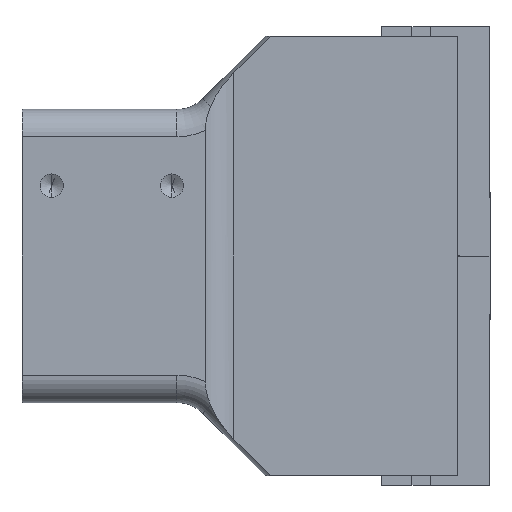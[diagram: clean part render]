
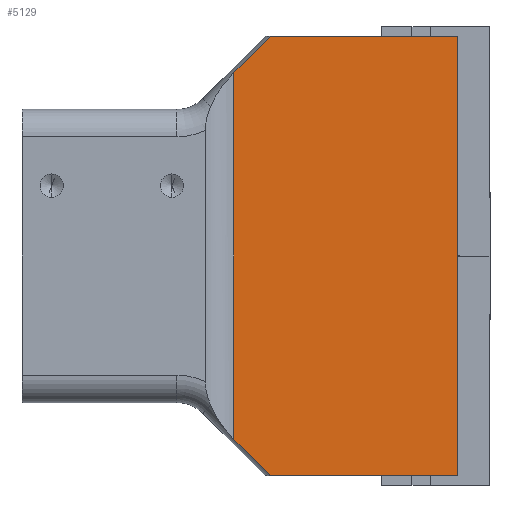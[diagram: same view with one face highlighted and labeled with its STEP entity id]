
A CAD part, left-side view. The second image highlights one B-rep face of the part: STEP entity #5129.
In plain terms, the highlighted planar face has unit normal (-1, 0, 0).
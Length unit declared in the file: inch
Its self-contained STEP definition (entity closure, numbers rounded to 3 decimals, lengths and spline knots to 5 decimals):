
#23 = CARTESIAN_POINT ( 'NONE',  ( -0.531, -1.486, -1.5 ) ) ;
#129 = LINE ( 'NONE', #5002, #2624 ) ;
#164 = CARTESIAN_POINT ( 'NONE',  ( -0.531, 0.63819, -0.65219 ) ) ;
#192 = EDGE_CURVE ( 'NONE', #3056, #1813, #1023, .T. ) ;
#218 = DIRECTION ( 'NONE',  ( 1., 0., 0. ) ) ;
#269 = CARTESIAN_POINT ( 'NONE',  ( -0.531, -1.486, 1.5 ) ) ;
#364 = CARTESIAN_POINT ( 'NONE',  ( -0.531, 0.04064, 1.5 ) ) ;
#486 = ORIENTED_EDGE ( 'NONE', *, *, #2070, .F. ) ;
#517 = VERTEX_POINT ( 'NONE', #269 ) ;
#559 = LINE ( 'NONE', #364, #4497 ) ;
#642 = LINE ( 'NONE', #1498, #5706 ) ;
#840 = ORIENTED_EDGE ( 'NONE', *, *, #192, .T. ) ;
#958 = EDGE_LOOP ( 'NONE', ( #4115, #5398, #2068, #4723, #486, #840 ) ) ;
#1023 = LINE ( 'NONE', #6231, #3812 ) ;
#1051 = CARTESIAN_POINT ( 'NONE',  ( -0.531, -0.20962, 1.5 ) ) ;
#1120 = CARTESIAN_POINT ( 'NONE',  ( -0.531, -0.20962, -1.5 ) ) ;
#1333 = AXIS2_PLACEMENT_3D ( 'NONE', #6130, #218, #3701 ) ;
#1498 = CARTESIAN_POINT ( 'NONE',  ( -0.531, -1.486, 1.5 ) ) ;
#1627 = VERTEX_POINT ( 'NONE', #5302 ) ;
#1813 = VERTEX_POINT ( 'NONE', #1957 ) ;
#1957 = CARTESIAN_POINT ( 'NONE',  ( -0.531, 0.04064, 1.24974 ) ) ;
#2068 = ORIENTED_EDGE ( 'NONE', *, *, #4985, .T. ) ;
#2070 = EDGE_CURVE ( 'NONE', #3056, #517, #5175, .T. ) ;
#2296 = DIRECTION ( 'NONE',  ( 0., 0.707, -0.707 ) ) ;
#2340 = DIRECTION ( 'NONE',  ( 0., 0., -1. ) ) ;
#2572 = DIRECTION ( 'NONE',  ( 0., -1., 0. ) ) ;
#2624 = VECTOR ( 'NONE', #2572, 39.37008 ) ;
#2705 = PLANE ( 'NONE',  #1333 ) ;
#2766 = EDGE_CURVE ( 'NONE', #1813, #1627, #559, .T. ) ;
#3010 = EDGE_CURVE ( 'NONE', #3237, #517, #642, .T. ) ;
#3056 = VERTEX_POINT ( 'NONE', #1051 ) ;
#3170 = FACE_OUTER_BOUND ( 'NONE', #958, .T. ) ;
#3237 = VERTEX_POINT ( 'NONE', #23 ) ;
#3419 = VECTOR ( 'NONE', #5124, 39.37008 ) ;
#3440 = EDGE_CURVE ( 'NONE', #1627, #5328, #6009, .T. ) ;
#3701 = DIRECTION ( 'NONE',  ( 0., 0., -1. ) ) ;
#3812 = VECTOR ( 'NONE', #2296, 39.37008 ) ;
#3885 = VECTOR ( 'NONE', #4607, 39.37008 ) ;
#4115 = ORIENTED_EDGE ( 'NONE', *, *, #2766, .T. ) ;
#4497 = VECTOR ( 'NONE', #2340, 39.37008 ) ;
#4607 = DIRECTION ( 'NONE',  ( 0., -1., 0. ) ) ;
#4723 = ORIENTED_EDGE ( 'NONE', *, *, #3010, .T. ) ;
#4942 = DIRECTION ( 'NONE',  ( 0., 0., 1. ) ) ;
#4985 = EDGE_CURVE ( 'NONE', #5328, #3237, #129, .T. ) ;
#5002 = CARTESIAN_POINT ( 'NONE',  ( -0.531, 0.236, -1.5 ) ) ;
#5124 = DIRECTION ( 'NONE',  ( 0., -0.707, -0.707 ) ) ;
#5129 = ADVANCED_FACE ( 'NONE', ( #3170 ), #2705, .F. ) ;
#5175 = LINE ( 'NONE', #5588, #3885 ) ;
#5302 = CARTESIAN_POINT ( 'NONE',  ( -0.531, 0.04064, -1.24974 ) ) ;
#5328 = VERTEX_POINT ( 'NONE', #1120 ) ;
#5398 = ORIENTED_EDGE ( 'NONE', *, *, #3440, .T. ) ;
#5588 = CARTESIAN_POINT ( 'NONE',  ( -0.531, 0.236, 1.5 ) ) ;
#5706 = VECTOR ( 'NONE', #4942, 39.37008 ) ;
#6009 = LINE ( 'NONE', #164, #3419 ) ;
#6130 = CARTESIAN_POINT ( 'NONE',  ( -0.531, 0.236, 1.5 ) ) ;
#6231 = CARTESIAN_POINT ( 'NONE',  ( -0.531, 2.13819, -0.84781 ) ) ;
